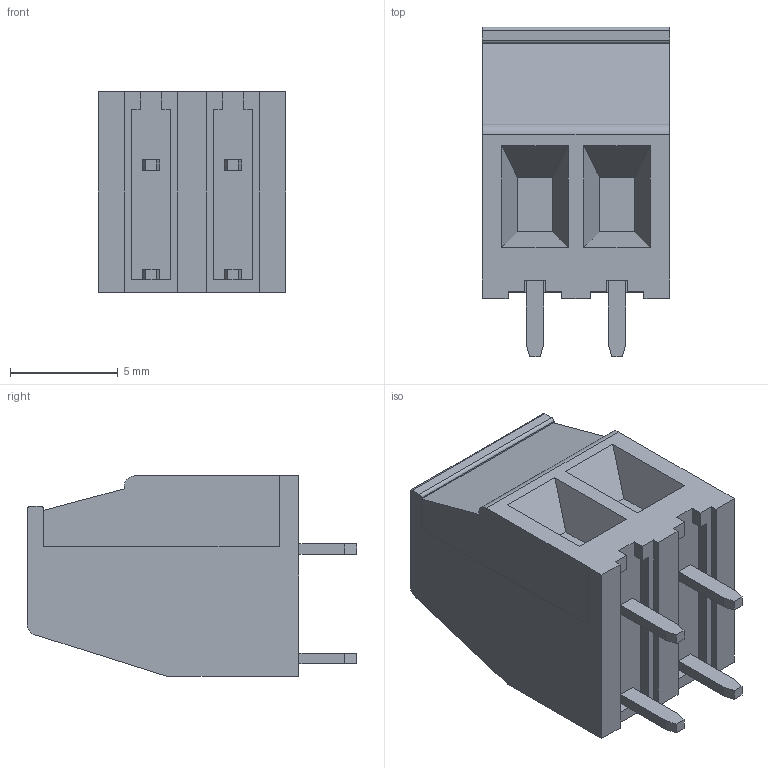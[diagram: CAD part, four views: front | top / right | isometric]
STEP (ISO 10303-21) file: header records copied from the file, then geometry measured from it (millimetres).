
FILE_DESCRIPTION (( 'STEP AP214' ), '1' );
FILE_NAME ('MKDS 1_ 2-3.81.STEP', '2025-03-12T15:58:19', ( '' ), ( '' ), 'SwSTEP 2.0', 'SolidWorks 2021', '' );
FILE_SCHEMA (( 'AUTOMOTIVE_DESIGN' ));
Length unit declared in the file: millimetre
Products named in the file (1): MKDS 1_ 2-3.81
Bounding box: 8.71 x 15.3 x 9.3 mm (x, y, z)
Volume: 843.6 mm3; surface area: 767.7 mm2
Topology: 7 solids, 7 shells, 120 faces, 300 edges, 200 vertices
Faces by surface type: plane 107, cylinder 13
Entity records: 3626 total; most frequent: CARTESIAN_POINT 621, ORIENTED_EDGE 600, DIRECTION 576, EDGE_CURVE 300, VECTOR 266, LINE 266, VERTEX_POINT 200, AXIS2_PLACEMENT_3D 155
